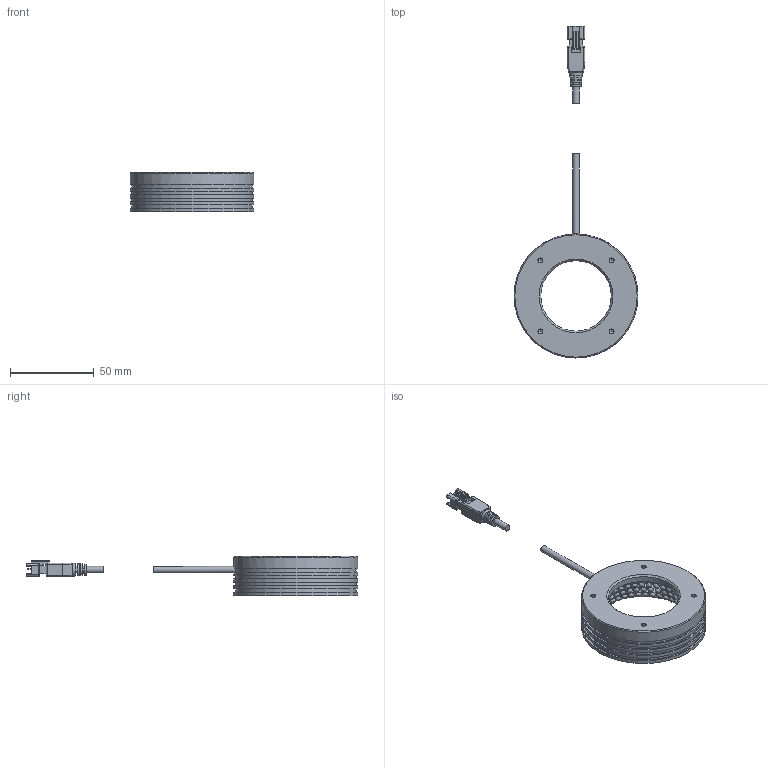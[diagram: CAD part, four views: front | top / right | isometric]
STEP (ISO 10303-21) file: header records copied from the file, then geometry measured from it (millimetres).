
FILE_DESCRIPTION(('STEP AP214'),'1');
FILE_NAME('VLR-75D74.stp','2026-04-10T05:09:02',(' '),(' '),'Spatial InterOp 3D',' ',' ');
FILE_SCHEMA(('AUTOMOTIVE_DESIGN { 1 0 10303 214 1 1 1 1 }'));
Length unit declared in the file: metre
Products named in the file (3): VLR-75D74; Component1; Component2
Assembly tree (2 placements, depth 2):
  VLR-75D74
    Component1
    Component2
Bounding box: 74 x 198.13 x 23.5 mm (x, y, z)
Volume: 37526.4 mm3; surface area: 33380 mm2
Topology: 2 solids, 3 shells, 799 faces, 1589 edges, 1043 vertices
Faces by surface type: plane 363, cylinder 291, bspline 124, cone 13, torus 4, sphere 4
Full cylindrical faces by diameter (mm): 2.5 x4, 3.5 x120, 3.9 x2, 4 x120, 42 x1, 46 x1, 65 x1, 68 x1, 72 x3, 74 x5
Entity records: 35459 total; most frequent: CARTESIAN_POINT 13137, DIRECTION 2849, ORIENTED_EDGE 2088, EDGE_LOOP 1451, AXIS2_PLACEMENT_3D 1277, STYLED_ITEM 1193, PRESENTATION_STYLE_ASSIGNMENT 1193, COLOUR_RGB 1193
